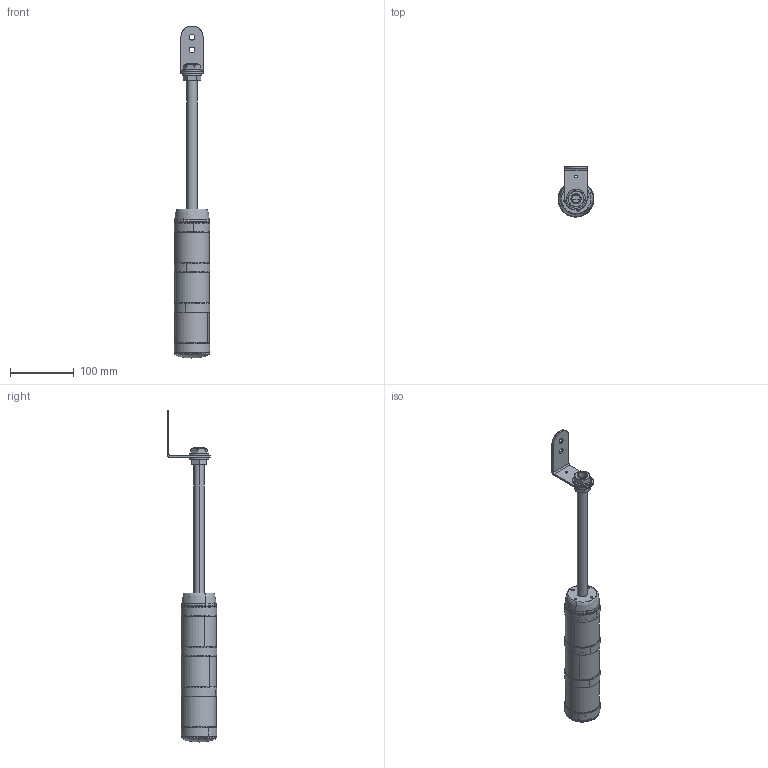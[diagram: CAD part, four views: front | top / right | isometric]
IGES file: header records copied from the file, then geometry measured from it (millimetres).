
Start section: SolidWorks IGES file using analytic representation for surfaces
Global section: file name: C:\Dokumente und Einstellungen\MMark\Desktop\22092xx3xxx - BR50-Rohr250 3-stufig.IGS; native system: SolidWorks 2009; preprocessor: SolidWorks 2009; author: MMark; date: 100511.132404; units: millimetre
Bounding box: 55.93 x 77.99 x 520.85 mm (x, y, z)
Surface area: 87686.1 mm2 (no closed solid volume)
Topology: 0 solids, 0 shells, 183 faces, 4191 edges, 4188 vertices
Faces by surface type: revolution 96, bspline 87
